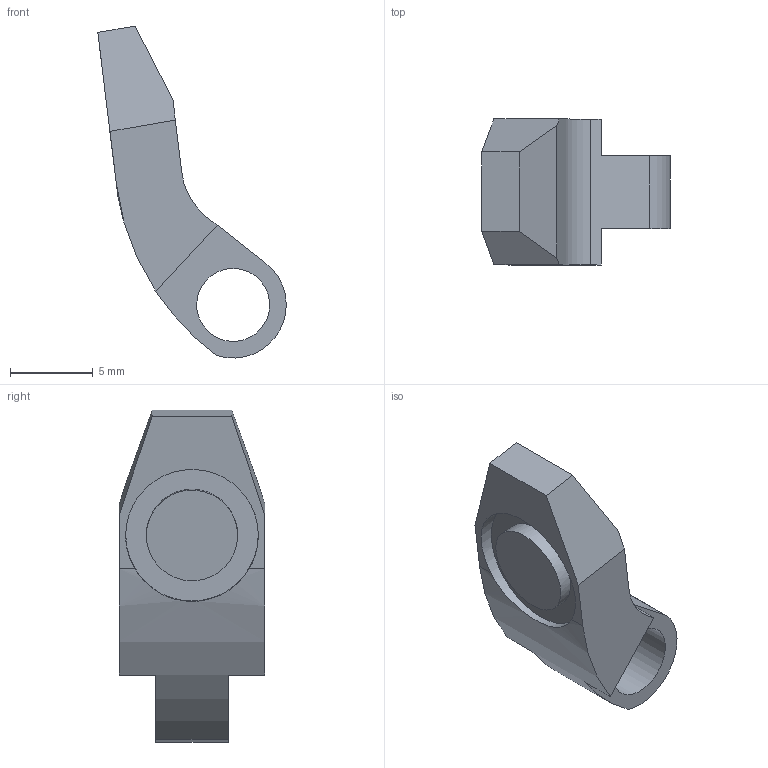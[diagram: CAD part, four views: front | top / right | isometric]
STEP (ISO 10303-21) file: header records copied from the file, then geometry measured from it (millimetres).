
FILE_DESCRIPTION(/* description */ (''),/* implementation_level */ '2;1');
FILE_NAME(/* name */ '6-17-2 Joy lever one.step',/* time_stamp */ '2025-05-10T22:37:43+02:00',/* author */ (''),/* organization */ (''),/* preprocessor_version */ 'ST-DEVELOPER v20.1',/* originating_system */ 'Autodesk Translation Framework v14.4.0.0',/* authorisation */ '');
FILE_SCHEMA (('AUTOMOTIVE_DESIGN { 1 0 10303 214 3 1 1 }'));
Length unit declared in the file: millimetre
Products named in the file (1): 6-17-2 Joy lever one
Bounding box: 11.36 x 8.8 x 20.02 mm (x, y, z)
Volume: 551.3 mm3; surface area: 610.4 mm2
Topology: 1 solids, 1 shells, 21 faces, 54 edges, 36 vertices
Faces by surface type: plane 15, cylinder 6
Full cylindrical faces by diameter (mm): 4.4 x1, 5.5 x1, 8 x1
Entity records: 699 total; most frequent: CARTESIAN_POINT 126, DIRECTION 112, ORIENTED_EDGE 108, EDGE_CURVE 54, LINE 38, VECTOR 38, AXIS2_PLACEMENT_3D 37, VERTEX_POINT 36
